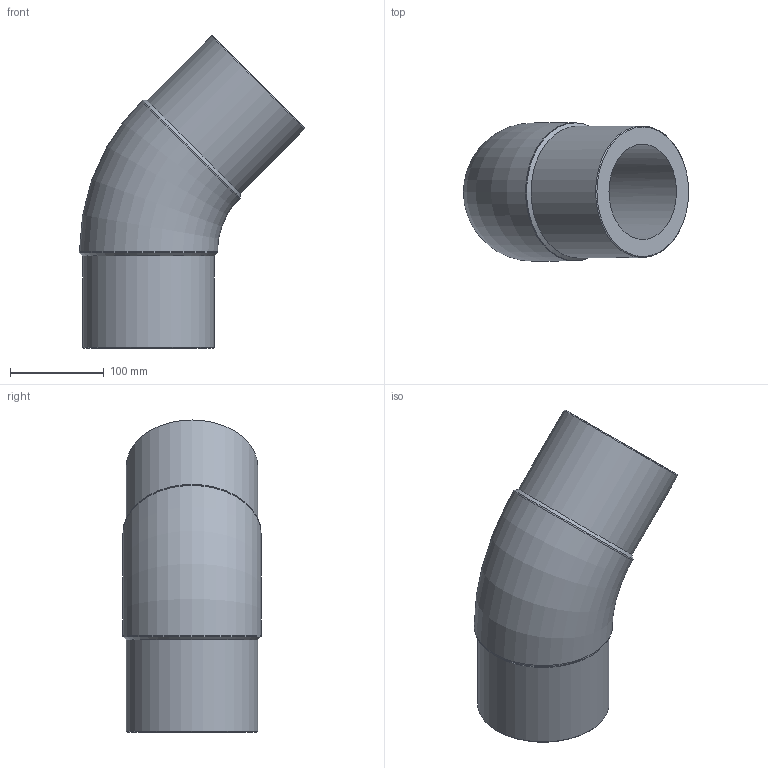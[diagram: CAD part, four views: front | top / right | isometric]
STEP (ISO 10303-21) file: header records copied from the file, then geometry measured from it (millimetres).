
FILE_DESCRIPTION(/* description */ ('Unknown'),/* implementation_level */ '2;1');
FILE_NAME(/* name */ 'G4P140H',/* time_stamp */ '2022-01-21T09:58:28+01:00',/* author */ ('Unknown'),/* organization */ ('Unknown'),/* preprocessor_version */ 'ST-DEVELOPER v18.1',/* originating_system */ 'Solid Edge',/* authorisation */ 'Unknown');
FILE_SCHEMA (('AUTOMOTIVE_DESIGN {1 0 10303 214 3 1 1}'));
Length unit declared in the file: millimetre
Products named in the file (1): G4P140H
Bounding box: 239.67 x 147 x 332.17 mm (x, y, z)
Volume: 2597430.3 mm3; surface area: 264981.7 mm2
Topology: 1 solids, 1 shells, 14 faces, 34 edges, 22 vertices
Faces by surface type: cylinder 6, cone 4, plane 2, torus 2
Full cylindrical faces by diameter (mm): 101.6 x2, 140 x2, 147 x2
Entity records: 370 total; most frequent: CARTESIAN_POINT 70, DIRECTION 60, ORIENTED_EDGE 38, AXIS2_PLACEMENT_3D 30, EDGE_LOOP 27, FACE_BOUND 27, EDGE_CURVE 19, VERTEX_POINT 18
